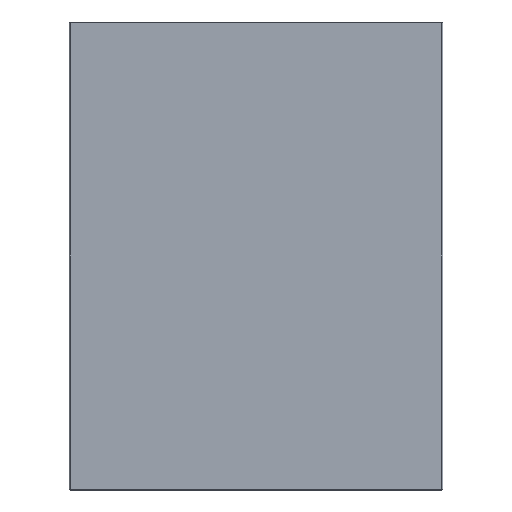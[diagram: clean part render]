
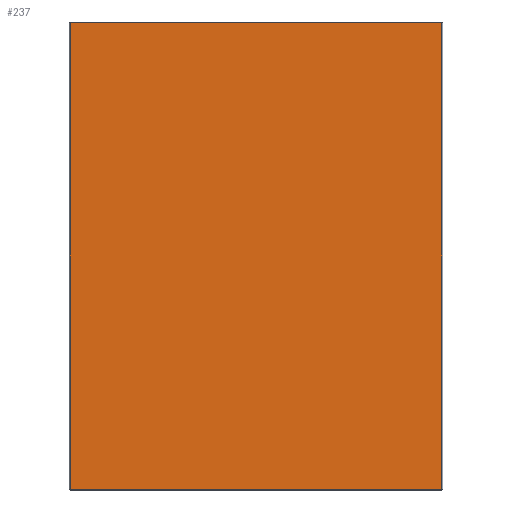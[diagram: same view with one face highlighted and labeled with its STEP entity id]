
A CAD part, front view. The second image highlights one B-rep face of the part: STEP entity #237.
In plain terms, the highlighted planar face has unit normal (0, -1, 0).
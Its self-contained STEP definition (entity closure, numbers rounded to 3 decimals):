
#5 = DIRECTION ( 'NONE',  ( -1., 0., 0. ) ) ;
#50 = VECTOR ( 'NONE', #558, 1000. ) ;
#62 = CARTESIAN_POINT ( 'NONE',  ( 197., 0., 0. ) ) ;
#74 = CARTESIAN_POINT ( 'NONE',  ( 197., 0., 247. ) ) ;
#90 = VERTEX_POINT ( 'NONE', #74 ) ;
#101 = VERTEX_POINT ( 'NONE', #262 ) ;
#114 = LINE ( 'NONE', #62, #125 ) ;
#125 = VECTOR ( 'NONE', #197, 1000. ) ;
#150 = CARTESIAN_POINT ( 'NONE',  ( 0., 0., 0. ) ) ;
#160 = PLANE ( 'NONE',  #515 ) ;
#161 = VECTOR ( 'NONE', #5, 1000. ) ;
#163 = DIRECTION ( 'NONE',  ( 0., 1., 0. ) ) ;
#170 = DIRECTION ( 'NONE',  ( 0., 0., 1. ) ) ;
#197 = DIRECTION ( 'NONE',  ( 0., 0., 1. ) ) ;
#205 = LINE ( 'NONE', #479, #212 ) ;
#211 = CARTESIAN_POINT ( 'NONE',  ( -197., 0., -247. ) ) ;
#212 = VECTOR ( 'NONE', #512, 1000. ) ;
#237 = ADVANCED_FACE ( 'NONE', ( #316 ), #160, .F. ) ;
#239 = ORIENTED_EDGE ( 'NONE', *, *, #382, .T. ) ;
#244 = VERTEX_POINT ( 'NONE', #211 ) ;
#262 = CARTESIAN_POINT ( 'NONE',  ( 197., 0., -247. ) ) ;
#316 = FACE_OUTER_BOUND ( 'NONE', #582, .T. ) ;
#351 = EDGE_CURVE ( 'NONE', #244, #101, #205, .T. ) ;
#355 = EDGE_CURVE ( 'NONE', #396, #244, #611, .T. ) ;
#377 = EDGE_CURVE ( 'NONE', #90, #396, #561, .T. ) ;
#382 = EDGE_CURVE ( 'NONE', #101, #90, #114, .T. ) ;
#396 = VERTEX_POINT ( 'NONE', #612 ) ;
#404 = ORIENTED_EDGE ( 'NONE', *, *, #355, .T. ) ;
#431 = CARTESIAN_POINT ( 'NONE',  ( -197., 0., 0. ) ) ;
#438 = ORIENTED_EDGE ( 'NONE', *, *, #351, .T. ) ;
#475 = ORIENTED_EDGE ( 'NONE', *, *, #377, .T. ) ;
#479 = CARTESIAN_POINT ( 'NONE',  ( 0., 0., -247. ) ) ;
#512 = DIRECTION ( 'NONE',  ( 1., 0., 0. ) ) ;
#515 = AXIS2_PLACEMENT_3D ( 'NONE', #150, #163, #170 ) ;
#558 = DIRECTION ( 'NONE',  ( 0., 0., -1. ) ) ;
#561 = LINE ( 'NONE', #604, #161 ) ;
#582 = EDGE_LOOP ( 'NONE', ( #239, #475, #404, #438 ) ) ;
#604 = CARTESIAN_POINT ( 'NONE',  ( 0., 0., 247. ) ) ;
#611 = LINE ( 'NONE', #431, #50 ) ;
#612 = CARTESIAN_POINT ( 'NONE',  ( -197., 0., 247. ) ) ;
